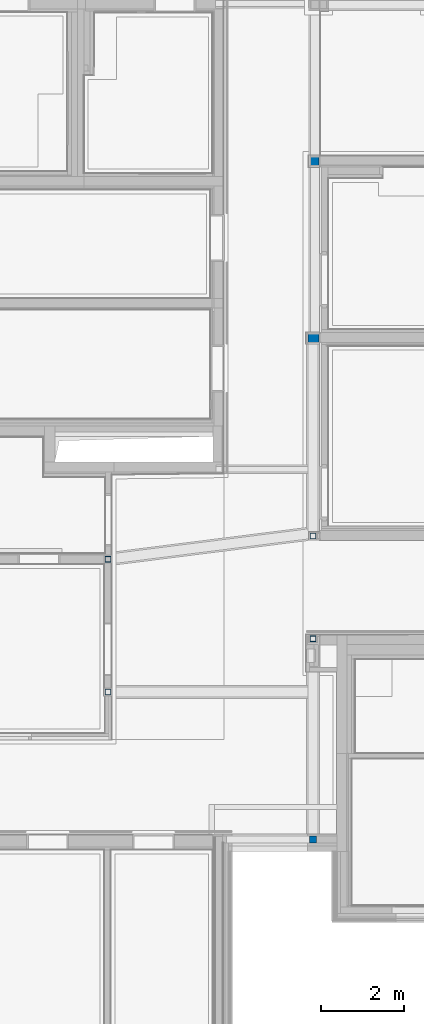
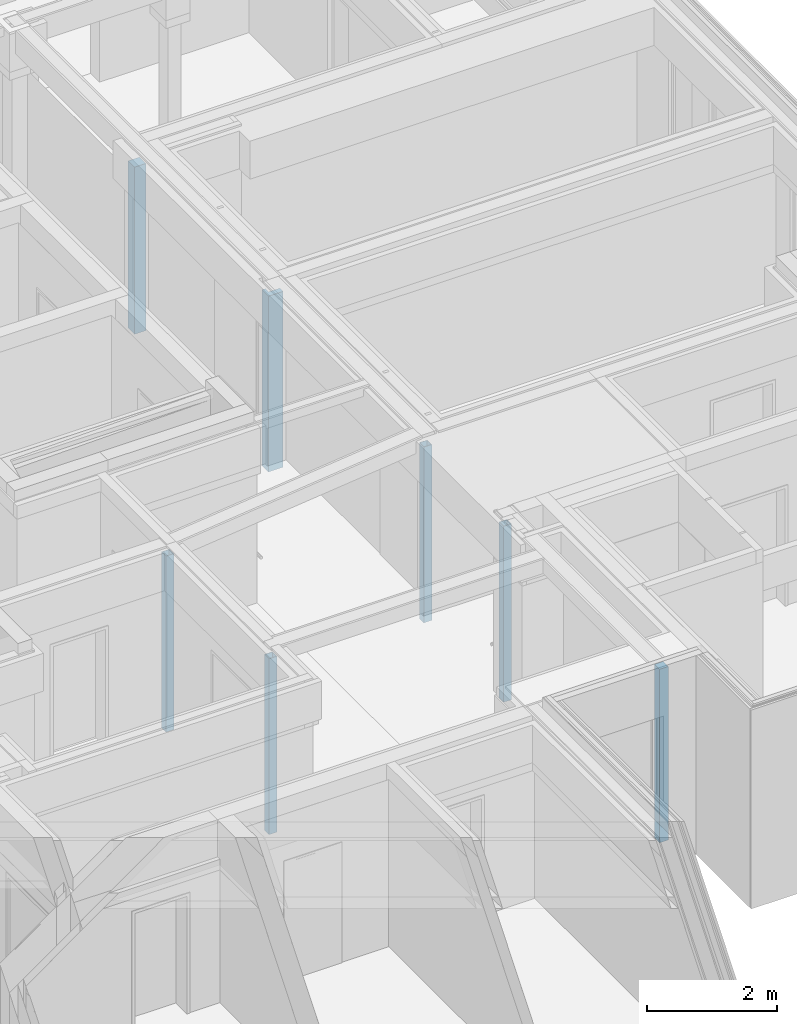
# One storey, part 3 of 222: 7 columns.
"""IFC4 building model written with IfcOpenShell, lengths in metres."""

from ifc_helpers import new_model, entity, si_unit, converted_unit, derived_unit, frame, frame_2d, origin, origin_with_axes, place, context, subcontext, project, spatial, polyline, rectangle, outline, extrude, clip, bounded_halfspace, material, element, save


model = new_model("IFC4")

# Units and contexts
model_context = context("Model", 3, precision=1e-05, world=origin())
body_context = subcontext(model_context, "Body", "Model", "MODEL_VIEW")
ifc_project = project(units=[si_unit("LENGTHUNIT", "METRE"), si_unit("AREAUNIT", "SQUARE_METRE"), si_unit("VOLUMEUNIT", "CUBIC_METRE"), si_unit("MASSUNIT", "GRAM", prefix="KILO"), converted_unit("PLANEANGLEUNIT", "DEGREE", entity("IfcPlaneAngleMeasure", 0.0174532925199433), si_unit("PLANEANGLEUNIT", "RADIAN"), dimensions=[0, 0, 0, 0, 0, 0, 0]), derived_unit("THERMALTRANSMITTANCEUNIT", [(si_unit("POWERUNIT", "WATT"), 1), (si_unit("THERMODYNAMICTEMPERATUREUNIT", "KELVIN"), -1), (si_unit("LENGTHUNIT", "METRE"), -2)]), derived_unit("VOLUMETRICFLOWRATEUNIT", [(si_unit("LENGTHUNIT", "METRE"), 3), (converted_unit("TIMEUNIT", "hour", entity("IfcTimeMeasure", 3600.0), si_unit("TIMEUNIT", "SECOND"), dimensions=[0, 0, 1, 0, 0, 0, 0]), -1), (si_unit("LENGTHUNIT", "METRE"), -1)])], contexts=[model_context])

# Site, building, storey
site_placement = place(None, origin())
site = spatial("IfcSite", under=ifc_project, at=site_placement, Name="Psychiatrie Neubau Wunstorf", CompositionType="ELEMENT")
building_placement = place(site_placement, origin())
building = spatial("IfcBuilding", under=site, at=building_placement, Name="Neubau H2 Stationsgebäude", CompositionType="ELEMENT")
storey_placement = place(building_placement, frame((0.0, 0.0, 3.6)))
storey = spatial("IfcBuildingStorey", under=building, at=storey_placement, Name="H2 Ebene +1", CompositionType="ELEMENT", Elevation=3.6)

# Columns
ifc_material_1 = material(Name="H")
column_1_placement = place(storey_placement, frame((70.175, 0.340002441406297, 0.28)))
element("IfcColumn", 1, at=column_1_placement, inside=storey, material=ifc_material_1, PredefinedType="COLUMN", context=body_context, shape_type="SweptSolid", body=[
    extrude(rectangle(XDim=0.16, YDim=0.16, at=frame_2d((0.08, 0.08), x_axis=(1.0, 0.0))), origin_with_axes(), (0.0, 0.0, 1.0), 3.27),
])
ifc_material_2 = material(Name="QRO")
column_2_placement = place(storey_placement, frame((65.2649963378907, 3.8899969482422, 0.0)))
element("IfcColumn", 2, at=column_2_placement, inside=storey, material=ifc_material_2, Name="QRO 140x5", PredefinedType="COLUMN", context=body_context, shape_type="SweptSolid", body=[
    extrude(outline(polyline([(0.0, 0.0), (0.14, 0.0), (0.14, 0.14), (0.0, 0.14), (0.0, 0.0)]), holes=[polyline([(0.005, 0.005), (0.005, 0.135), (0.135, 0.135), (0.135, 0.005), (0.005, 0.005)])]), origin_with_axes(), (0.0, 0.0, 1.0), 3.317),
])
ifc_material_3 = material(Name="QRO")
column_3_placement = place(storey_placement, frame((70.1849950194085, 7.63249981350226, 0.0)))
element("IfcColumn", 3, at=column_3_placement, inside=storey, material=ifc_material_3, Name="QRO 140x5", PredefinedType="COLUMN", context=body_context, shape_type="SweptSolid", body=[
    extrude(outline(polyline([(0.0, 0.0), (0.14, 0.0), (0.14, 0.14), (0.0, 0.14), (0.0, 0.0)]), holes=[polyline([(0.005, 0.005), (0.005, 0.135), (0.135, 0.135), (0.135, 0.005), (0.005, 0.005)])]), origin_with_axes(), (0.0, 0.0, 1.0), 3.317),
])
ifc_material_4 = material(Name="QRO")
column_4_placement = place(storey_placement, frame((70.1849950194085, 5.16750000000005, 0.0)))
element("IfcColumn", 4, at=column_4_placement, inside=storey, material=ifc_material_4, Name="QRO 140x5", PredefinedType="COLUMN", context=body_context, shape_type="SweptSolid", body=[
    extrude(outline(polyline([(0.0, 0.0), (0.14, 0.0), (0.14, 0.14), (0.0, 0.14), (0.0, 0.0)]), holes=[polyline([(0.005, 0.005), (0.005, 0.135), (0.135, 0.135), (0.135, 0.005), (0.005, 0.005)])]), origin_with_axes(), (0.0, 0.0, 1.0), 3.317),
])
ifc_material_5 = material(Name="QRO")
column_5_placement = place(storey_placement, frame((65.2649963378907, 7.0764996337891, 0.0)))
element("IfcColumn", 5, at=column_5_placement, inside=storey, material=ifc_material_5, Name="QRO 140x5", PredefinedType="COLUMN", context=body_context, shape_type="SweptSolid", body=[
    extrude(outline(polyline([(0.0, 0.0), (0.14, 0.0), (0.14, 0.14), (0.0, 0.14), (0.0, 0.0)]), holes=[polyline([(0.005, 0.005), (0.005, 0.135), (0.135, 0.135), (0.135, 0.005), (0.005, 0.005)])]), origin_with_axes(), (0.0, 0.0, 1.0), 3.317),
])
ifc_material_6 = material(Name="H")
column_6_placement = place(storey_placement, frame((70.2000061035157, 16.5965, 0.0)))
element("IfcColumn", 6, at=column_6_placement, inside=storey, material=ifc_material_6, PredefinedType="COLUMN", context=body_context, shape_type="SweptSolid", body=[
    extrude(rectangle(XDim=0.2, YDim=0.2, at=frame_2d((0.1, 0.1), x_axis=(1.0, 0.0))), origin_with_axes(), (0.0, 0.0, 1.0), 3.15),
])
ifc_material_7 = material(Name="H")
column_7_placement = place(storey_placement, frame((70.4000000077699, 12.5500595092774, 0.0)))
element("IfcColumn", 7, at=column_7_placement, inside=storey, material=ifc_material_7, PredefinedType="COLUMN", context=body_context, shape_type="Clipping", body=[
    clip(extrude(rectangle(XDim=0.265, YDim=0.2, at=frame_2d((-0.1325, -0.1), x_axis=(-1.0, 0.0))), origin_with_axes(), (0.0, 0.0, 1.0), 3.317), bounded_halfspace(frame((-0.0999969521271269, -0.0500000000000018, 3.15), z_axis=(0.0, 0.0, -1.0), x_axis=(1.0, 0.0, 0.0)), True, origin_with_axes(), polyline([(-0.199993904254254, -0.100000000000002), (0.0, -0.100000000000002), (0.0, 0.0), (-0.199993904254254, 0.0), (-0.199993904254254, -0.100000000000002)]))),
])

save(model, "model.ifc")
